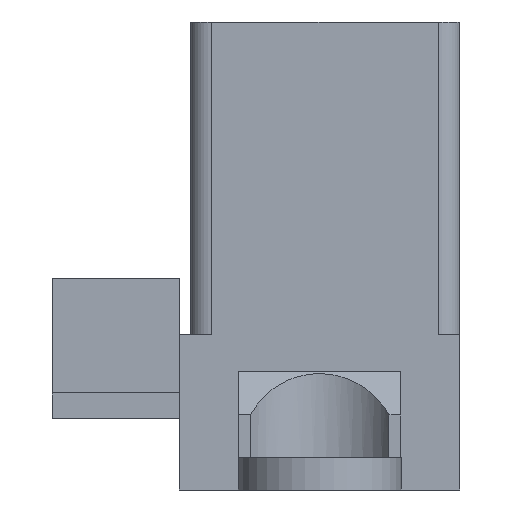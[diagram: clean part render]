
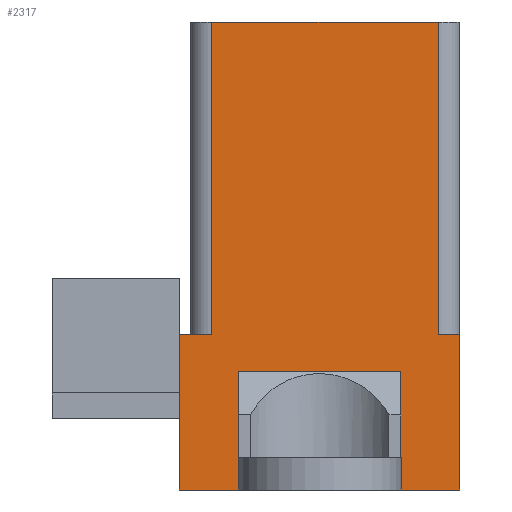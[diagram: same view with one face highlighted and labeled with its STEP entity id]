
A CAD part, front view. The second image highlights one B-rep face of the part: STEP entity #2317.
In plain terms, the highlighted planar face has unit normal (0, -1, 0).
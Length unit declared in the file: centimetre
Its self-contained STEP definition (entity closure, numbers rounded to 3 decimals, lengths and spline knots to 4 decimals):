
#609=VERTEX_POINT('',#10572);
#610=VERTEX_POINT('',#10573);
#611=VERTEX_POINT('',#10575);
#612=VERTEX_POINT('',#10577);
#613=VERTEX_POINT('',#10579);
#614=VERTEX_POINT('',#10581);
#615=VERTEX_POINT('',#10583);
#616=VERTEX_POINT('',#10585);
#617=VERTEX_POINT('',#10587);
#618=VERTEX_POINT('',#10589);
#619=VERTEX_POINT('',#10591);
#620=VERTEX_POINT('',#10592);
#621=VERTEX_POINT('',#10594);
#622=VERTEX_POINT('',#10595);
#867=EDGE_CURVE('',#609,#610,#4756,.T.);
#868=EDGE_CURVE('',#611,#610,#4757,.T.);
#869=EDGE_CURVE('',#611,#612,#4758,.T.);
#870=EDGE_CURVE('',#613,#612,#4759,.T.);
#871=EDGE_CURVE('',#613,#614,#4760,.T.);
#872=EDGE_CURVE('',#614,#615,#4761,.T.);
#873=EDGE_CURVE('',#615,#616,#4762,.T.);
#874=EDGE_CURVE('',#616,#617,#4763,.T.);
#875=EDGE_CURVE('',#617,#618,#4764,.T.);
#876=EDGE_CURVE('',#618,#619,#4765,.T.);
#877=EDGE_CURVE('',#619,#620,#4760,.T.);
#878=EDGE_CURVE('',#620,#621,#4766,.T.);
#879=EDGE_CURVE('',#621,#622,#4758,.T.);
#880=EDGE_CURVE('',#622,#609,#4767,.T.);
#1246=ORIENTED_EDGE('',*,*,#867,.T.);
#1247=ORIENTED_EDGE('',*,*,#868,.F.);
#1248=ORIENTED_EDGE('',*,*,#869,.T.);
#1249=ORIENTED_EDGE('',*,*,#870,.F.);
#1250=ORIENTED_EDGE('',*,*,#871,.T.);
#1251=ORIENTED_EDGE('',*,*,#872,.T.);
#1252=ORIENTED_EDGE('',*,*,#873,.T.);
#1253=ORIENTED_EDGE('',*,*,#874,.T.);
#1254=ORIENTED_EDGE('',*,*,#875,.T.);
#1255=ORIENTED_EDGE('',*,*,#876,.T.);
#1256=ORIENTED_EDGE('',*,*,#877,.T.);
#1257=ORIENTED_EDGE('',*,*,#878,.T.);
#1258=ORIENTED_EDGE('',*,*,#879,.T.);
#1259=ORIENTED_EDGE('',*,*,#880,.T.);
#1987=EDGE_LOOP('',(#1246,#1247,#1248,#1249,#1250,#1251,#1252,#1253,#1254,
#1255,#1256,#1257,#1258,#1259));
#2152=FACE_BOUND('',#1987,.T.);
#2317=ADVANCED_FACE('',(#2152),#8384,.T.);
#4756=LINE('',#10571,#8100);
#4757=LINE('',#10574,#8101);
#4758=LINE('',#10576,#8102);
#4759=LINE('',#10578,#8103);
#4760=LINE('',#10580,#8104);
#4761=LINE('',#10582,#8105);
#4762=LINE('',#10584,#8106);
#4763=LINE('',#10586,#8107);
#4764=LINE('',#10588,#8108);
#4765=LINE('',#10590,#8109);
#4766=LINE('',#10593,#8110);
#4767=LINE('',#10596,#8111);
#7510=AXIS2_PLACEMENT_3D('',#10570,#9124,$);
#8100=VECTOR('',#9125,1.);
#8101=VECTOR('',#9126,1.);
#8102=VECTOR('',#9127,1.);
#8103=VECTOR('',#9128,1.);
#8104=VECTOR('',#9129,1.);
#8105=VECTOR('',#9130,1.);
#8106=VECTOR('',#9131,1.);
#8107=VECTOR('',#9132,1.);
#8108=VECTOR('',#9133,1.);
#8109=VECTOR('',#9134,1.);
#8110=VECTOR('',#9135,1.);
#8111=VECTOR('',#9136,1.);
#8384=PLANE('',#7510);
#9124=DIRECTION('',(0.,-1.,0.));
#9125=DIRECTION('',(-1.,0.,0.));
#9126=DIRECTION('',(0.,0.,1.));
#9127=DIRECTION('',(-1.,0.,0.));
#9128=DIRECTION('',(0.,0.,1.));
#9129=DIRECTION('',(1.,0.,0.));
#9130=DIRECTION('',(0.,0.,1.));
#9131=DIRECTION('',(1.,0.,0.));
#9132=DIRECTION('',(0.,0.,-1.));
#9133=DIRECTION('',(1.,0.,0.));
#9134=DIRECTION('',(0.,0.,-1.));
#9135=DIRECTION('',(0.,0.,1.));
#9136=DIRECTION('',(0.,0.,1.));
#10570=CARTESIAN_POINT('',(-0.65,0.,0.));
#10571=CARTESIAN_POINT('',(-1.15,0.,2.17));
#10572=CARTESIAN_POINT('',(-0.1,0.,2.17));
#10573=CARTESIAN_POINT('',(-1.15,0.,2.17));
#10574=CARTESIAN_POINT('',(-1.15,0.,0.72));
#10575=CARTESIAN_POINT('',(-1.15,0.,0.72));
#10576=CARTESIAN_POINT('',(-1.3,0.,0.72));
#10577=CARTESIAN_POINT('',(-1.3,0.,0.72));
#10578=CARTESIAN_POINT('',(-1.3,0.,0.));
#10579=CARTESIAN_POINT('',(-1.3,0.,0.));
#10580=CARTESIAN_POINT('',(-1.3,0.,0.));
#10581=CARTESIAN_POINT('',(-1.0275,0.,0.));
#10582=CARTESIAN_POINT('',(-1.0275,0.,0.));
#10583=CARTESIAN_POINT('',(-1.0275,0.,0.55));
#10584=CARTESIAN_POINT('',(-0.65,0.,0.55));
#10585=CARTESIAN_POINT('',(-0.2736,0.,0.55));
#10586=CARTESIAN_POINT('',(-0.2736,0.,0.075));
#10587=CARTESIAN_POINT('',(-0.2736,0.,0.15));
#10588=CARTESIAN_POINT('',(-0.65,0.,0.15));
#10589=CARTESIAN_POINT('',(-0.2725,0.,0.15));
#10590=CARTESIAN_POINT('',(-0.2725,0.,0.));
#10591=CARTESIAN_POINT('',(-0.2725,0.,0.));
#10592=CARTESIAN_POINT('',(0.,0.,0.));
#10593=CARTESIAN_POINT('',(0.,0.,0.));
#10594=CARTESIAN_POINT('',(0.,0.,0.72));
#10595=CARTESIAN_POINT('',(-0.1,0.,0.72));
#10596=CARTESIAN_POINT('',(-0.1,0.,0.72));
